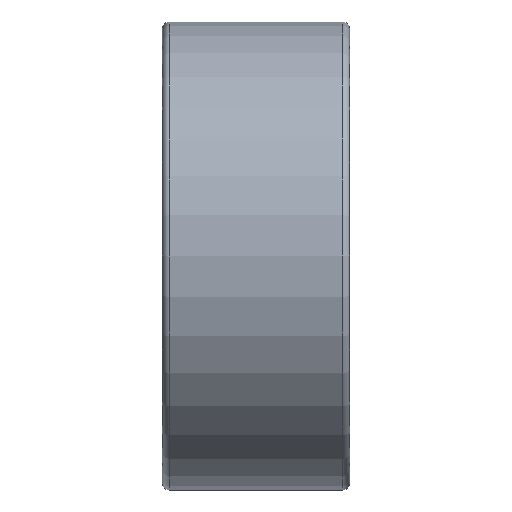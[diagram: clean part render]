
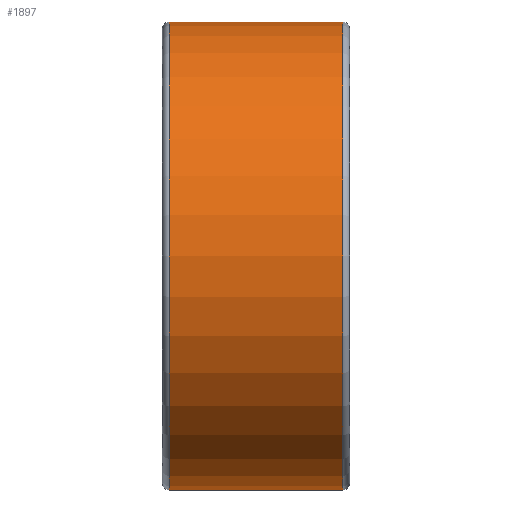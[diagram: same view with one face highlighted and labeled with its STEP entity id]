
A CAD part, front view. The second image highlights one B-rep face of the part: STEP entity #1897.
In plain terms, the highlighted cylindrical face has radius 5 mm (diameter 10 mm), a partial arc.
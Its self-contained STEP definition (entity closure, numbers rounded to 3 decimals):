
#209=CARTESIAN_POINT('',(1.85,0.,0.));
#210=DIRECTION('',(-1.,0.,0.));
#211=DIRECTION('',(0.,0.,-1.));
#212=AXIS2_PLACEMENT_3D('',#209,#210,#211);
#798=DIRECTION('',(-1.,0.,0.));
#799=VECTOR('',#798,3.7);
#800=CARTESIAN_POINT('',(1.85,0.,5.));
#801=LINE('',#800,#799);
#802=DIRECTION('',(-1.,0.,0.));
#803=VECTOR('',#802,3.7);
#804=CARTESIAN_POINT('',(1.85,0.,-5.));
#805=LINE('',#804,#803);
#811=CARTESIAN_POINT('',(-1.85,0.,0.));
#812=DIRECTION('',(1.,0.,0.));
#813=DIRECTION('',(0.,0.,1.));
#814=AXIS2_PLACEMENT_3D('',#811,#812,#813);
#966=CARTESIAN_POINT('',(1.85,0.,5.));
#967=VERTEX_POINT('',#966);
#968=CARTESIAN_POINT('',(1.85,0.,-5.));
#969=VERTEX_POINT('',#968);
#970=CARTESIAN_POINT('',(-1.85,0.,-5.));
#971=VERTEX_POINT('',#970);
#972=CARTESIAN_POINT('',(-1.85,0.,5.));
#973=VERTEX_POINT('',#972);
#1885=CARTESIAN_POINT('',(0.,0.,0.));
#1886=DIRECTION('',(-1.,0.,0.));
#1887=DIRECTION('',(0.,0.,1.));
#1888=AXIS2_PLACEMENT_3D('',#1885,#1886,#1887);
#1889=CYLINDRICAL_SURFACE('',#1888,5.);
#1890=ORIENTED_EDGE('',*,*,#1880,.T.);
#1892=ORIENTED_EDGE('',*,*,#1891,.F.);
#1893=ORIENTED_EDGE('',*,*,#1877,.F.);
#1894=ORIENTED_EDGE('',*,*,#1021,.F.);
#1895=EDGE_LOOP('',(#1890,#1892,#1893,#1894));
#1896=FACE_OUTER_BOUND('',#1895,.F.);
#1897=ADVANCED_FACE('',(#1896),#1889,.T.);
#213=CIRCLE('',#212,5.);
#815=CIRCLE('',#814,5.);
#1021=EDGE_CURVE('',#969,#967,#213,.T.);
#1877=EDGE_CURVE('',#967,#973,#801,.T.);
#1880=EDGE_CURVE('',#969,#971,#805,.T.);
#1891=EDGE_CURVE('',#973,#971,#815,.T.);
